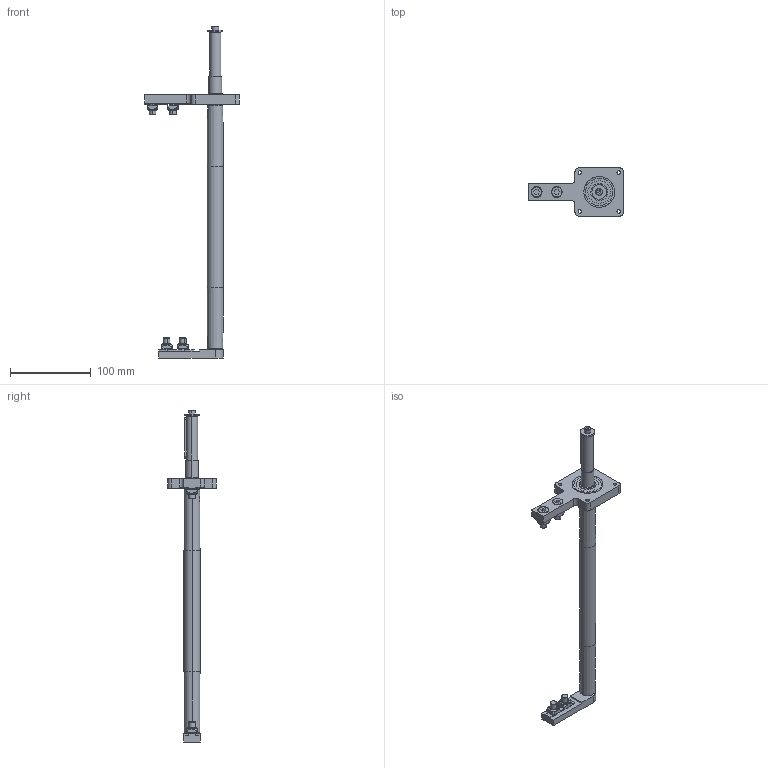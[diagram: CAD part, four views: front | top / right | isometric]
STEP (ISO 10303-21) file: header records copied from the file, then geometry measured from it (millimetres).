
FILE_DESCRIPTION (( 'STEP AP214' ), '1' );
FILE_NAME ('084.020.KD.30.280.STEP', '2021-02-05T13:48:23', ( '' ), ( '' ), 'SwSTEP 2.0', 'SolidWorks 2018', '' );
FILE_SCHEMA (( 'AUTOMOTIVE_DESIGN' ));
Length unit declared in the file: millimetre
Products named in the file (14): Circlip DIN 471 - 8 x 0.8_Circlip DIN 471 - 8 x 0.8; 084.302.000 DADI ALUSIC 13x13-1_084.302.004; 084.800.001-1; 084.800.007; CHIAVETTE_A 5x5x50 UNI 6604-69; 084.802.016_084.802.016; 084.301.000 VITI ALUSIC_084.301.003; 084.800.008; ISO 4762 M5 x 16 --- 16S_ISO 4762 M5 x 16 --- 16S; 084.800.002; 084.800.012; 084.800.037; 084.020.KD.30.280; Washer ISO 7094 - 5_Washer ISO 7094 - 5
Assembly tree (20 placements, depth 2):
  084.020.KD.30.280
    084.800.037
    084.800.001-1
    084.802.016_084.802.016
    084.301.000 VITI ALUSIC_084.301.003  x4
    084.302.000 DADI ALUSIC 13x13-1_084.302.004  x4
    084.800.012  x2
    084.800.008
    084.800.002
    084.800.007
    Washer ISO 7094 - 5_Washer ISO 7094 - 5
    ISO 4762 M5 x 16 --- 16S_ISO 4762 M5 x 16 --- 16S
    CHIAVETTE_A 5x5x50 UNI 6604-69
    Circlip DIN 471 - 8 x 0.8_Circlip DIN 471 - 8 x 0.8
Bounding box: 117.5 x 60 x 411 mm (x, y, z)
Volume: 174795.8 mm3; surface area: 67738.8 mm2
Topology: 21 solids, 22 shells, 600 faces, 1455 edges, 920 vertices
Faces by surface type: cylinder 209, plane 187, cone 106, torus 78, bspline 16, sphere 4
Entity records: 14277 total; most frequent: CARTESIAN_POINT 2672, DIRECTION 2508, ORIENTED_EDGE 2132, EDGE_CURVE 1066, AXIS2_PLACEMENT_3D 1019, VERTEX_POINT 677, CIRCLE 560, EDGE_LOOP 493
